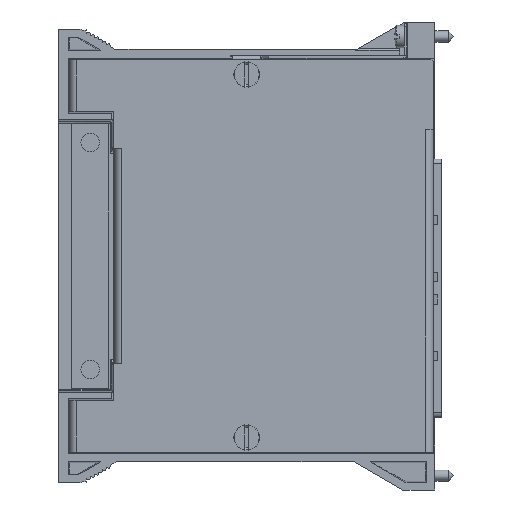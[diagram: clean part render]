
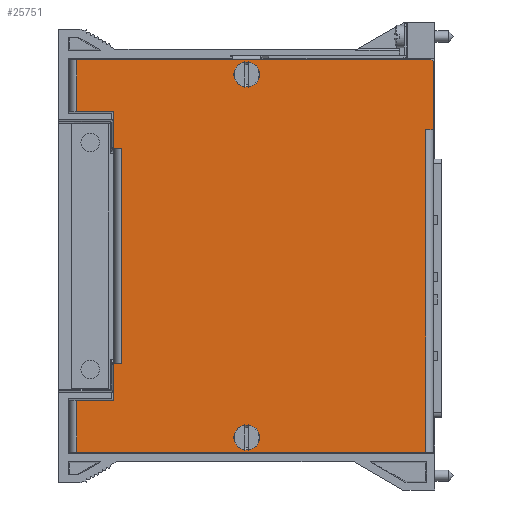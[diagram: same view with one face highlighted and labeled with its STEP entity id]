
A CAD part, top view. The second image highlights one B-rep face of the part: STEP entity #25751.
In plain terms, the highlighted planar face has unit normal (0, 0, 1).
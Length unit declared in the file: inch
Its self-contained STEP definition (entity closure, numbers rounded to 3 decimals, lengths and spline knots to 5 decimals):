
#3987=DIRECTION('',(0.,1.,0.));
#3988=VECTOR('',#3987,0.4575);
#3989=CARTESIAN_POINT('',(-3.15545,-1.73,0.382));
#3990=LINE('',#3989,#3988);
#4010=DIRECTION('',(0.,1.,0.));
#4011=VECTOR('',#4010,0.3225);
#4012=CARTESIAN_POINT('',(-2.82745,-1.2725,0.382));
#4013=LINE('',#4012,#4011);
#4014=DIRECTION('',(-1.,0.,0.));
#4015=VECTOR('',#4014,0.067);
#4016=CARTESIAN_POINT('',(-2.76045,-0.95,0.382));
#4017=LINE('',#4016,#4015);
#4018=DIRECTION('',(-1.,0.,0.));
#4019=VECTOR('',#4018,0.067);
#4020=CARTESIAN_POINT('',(-2.76045,0.95,0.382));
#4021=LINE('',#4020,#4019);
#4022=DIRECTION('',(0.,1.,0.));
#4023=VECTOR('',#4022,0.3225);
#4024=CARTESIAN_POINT('',(-2.82745,0.95,0.382));
#4025=LINE('',#4024,#4023);
#4026=DIRECTION('',(1.,0.,0.));
#4027=VECTOR('',#4026,0.328);
#4028=CARTESIAN_POINT('',(-3.15545,1.2725,0.382));
#4029=LINE('',#4028,#4027);
#4030=DIRECTION('',(-1.,0.,0.));
#4031=VECTOR('',#4030,3.123);
#4032=CARTESIAN_POINT('',(-0.03245,1.73,0.382));
#4033=LINE('',#4032,#4031);
#4034=DIRECTION('',(0.,1.,0.));
#4035=VECTOR('',#4034,0.595);
#4036=CARTESIAN_POINT('',(-0.01245,1.115,0.382));
#4037=LINE('',#4036,#4035);
#4038=DIRECTION('',(1.,0.,0.));
#4039=VECTOR('',#4038,0.067);
#4040=CARTESIAN_POINT('',(-0.07945,1.115,0.382));
#4041=LINE('',#4040,#4039);
#4042=DIRECTION('',(1.,0.,0.));
#4043=VECTOR('',#4042,3.076);
#4044=CARTESIAN_POINT('',(-3.15545,-1.73,0.382));
#4045=LINE('',#4044,#4043);
#4046=DIRECTION('',(1.,0.,0.));
#4047=VECTOR('',#4046,0.328);
#4048=CARTESIAN_POINT('',(-3.15545,-1.2725,0.382));
#4049=LINE('',#4048,#4047);
#4050=CARTESIAN_POINT('',(-1.65625,-1.6,0.382));
#4051=DIRECTION('',(0.,0.,-1.));
#4052=DIRECTION('',(-0.159,0.987,0.));
#4053=AXIS2_PLACEMENT_3D('',#4050,#4051,#4052);
#4055=CARTESIAN_POINT('',(-1.65625,-1.6,0.382));
#4056=DIRECTION('',(0.,0.,-1.));
#4057=DIRECTION('',(0.159,-0.987,0.));
#4058=AXIS2_PLACEMENT_3D('',#4055,#4056,#4057);
#4060=CARTESIAN_POINT('',(-1.65625,1.6,0.382));
#4061=DIRECTION('',(0.,0.,1.));
#4062=DIRECTION('',(0.159,0.987,0.));
#4063=AXIS2_PLACEMENT_3D('',#4060,#4061,#4062);
#4065=CARTESIAN_POINT('',(-1.65625,1.6,0.382));
#4066=DIRECTION('',(0.,0.,1.));
#4067=DIRECTION('',(-0.159,-0.987,0.));
#4068=AXIS2_PLACEMENT_3D('',#4065,#4066,#4067);
#4786=DIRECTION('',(0.,1.,0.));
#4787=VECTOR('',#4786,0.4575);
#4788=CARTESIAN_POINT('',(-3.15545,1.2725,0.382));
#4789=LINE('',#4788,#4787);
#4891=DIRECTION('',(0.,-1.,0.));
#4892=VECTOR('',#4891,1.9);
#4893=CARTESIAN_POINT('',(-2.76045,0.95,0.382));
#4894=LINE('',#4893,#4892);
#5678=DIRECTION('',(-0.707,0.707,0.));
#5679=VECTOR('',#5678,0.02828);
#5680=CARTESIAN_POINT('',(-0.01245,1.71,0.382));
#5681=LINE('',#5680,#5679);
#5751=DIRECTION('',(0.,-1.,0.));
#5752=VECTOR('',#5751,2.845);
#5753=CARTESIAN_POINT('',(-0.07945,1.115,0.382));
#5754=LINE('',#5753,#5752);
#5852=CARTESIAN_POINT('',(-1.67375,-1.4914,0.382));
#5854=CARTESIAN_POINT('',(-1.63875,-1.4914,0.382));
#5879=CARTESIAN_POINT('',(-1.63875,-1.7086,0.382));
#5881=CARTESIAN_POINT('',(-1.67375,-1.7086,0.382));
#5905=CARTESIAN_POINT('',(-1.65625,-1.6,0.382));
#5906=DIRECTION('',(0.,0.,-1.));
#5907=DIRECTION('',(0.159,0.987,0.));
#5908=AXIS2_PLACEMENT_3D('',#5905,#5906,#5907);
#5926=CARTESIAN_POINT('',(-1.65625,-1.6,0.382));
#5927=DIRECTION('',(0.,0.,-1.));
#5928=DIRECTION('',(-0.159,-0.987,0.));
#5929=AXIS2_PLACEMENT_3D('',#5926,#5927,#5928);
#5945=CARTESIAN_POINT('',(-1.67375,1.7086,0.382));
#5957=CARTESIAN_POINT('',(-1.63875,1.7086,0.382));
#5984=CARTESIAN_POINT('',(-1.65625,1.6,0.382));
#5985=DIRECTION('',(0.,0.,-1.));
#5986=DIRECTION('',(0.159,0.987,0.));
#5987=AXIS2_PLACEMENT_3D('',#5984,#5985,#5986);
#5998=CARTESIAN_POINT('',(-1.63875,1.4914,0.382));
#6010=CARTESIAN_POINT('',(-1.67375,1.4914,0.382));
#6024=CARTESIAN_POINT('',(-1.65625,1.6,0.382));
#6025=DIRECTION('',(0.,0.,-1.));
#6026=DIRECTION('',(-0.159,-0.987,0.));
#6027=AXIS2_PLACEMENT_3D('',#6024,#6025,#6026);
#17801=CARTESIAN_POINT('',(-3.15545,1.73,0.382));
#17803=VERTEX_POINT('',#17801);
#17805=CARTESIAN_POINT('',(-3.15545,-1.73,0.382));
#17807=VERTEX_POINT('',#17805);
#17816=CARTESIAN_POINT('',(-3.15545,-1.2725,0.382));
#17817=CARTESIAN_POINT('',(-2.82745,-1.2725,0.382));
#17818=VERTEX_POINT('',#17816);
#17819=VERTEX_POINT('',#17817);
#17820=CARTESIAN_POINT('',(-3.15545,1.2725,0.382));
#17821=CARTESIAN_POINT('',(-2.82745,1.2725,0.382));
#17822=VERTEX_POINT('',#17820);
#17823=VERTEX_POINT('',#17821);
#17860=CARTESIAN_POINT('',(-0.07945,1.115,0.382));
#17861=CARTESIAN_POINT('',(-0.01245,1.115,0.382));
#17862=VERTEX_POINT('',#17860);
#17863=VERTEX_POINT('',#17861);
#17872=CARTESIAN_POINT('',(-0.07945,-1.73,0.382));
#17873=VERTEX_POINT('',#17872);
#17884=CARTESIAN_POINT('',(-2.76045,0.95,0.382));
#17885=CARTESIAN_POINT('',(-2.82745,0.95,0.382));
#17886=VERTEX_POINT('',#17884);
#17887=VERTEX_POINT('',#17885);
#17892=CARTESIAN_POINT('',(-2.76045,-0.95,0.382));
#17893=CARTESIAN_POINT('',(-2.82745,-0.95,0.382));
#17894=VERTEX_POINT('',#17892);
#17895=VERTEX_POINT('',#17893);
#17972=CARTESIAN_POINT('',(-0.01245,1.71,0.382));
#17973=CARTESIAN_POINT('',(-0.03245,1.73,0.382));
#17974=VERTEX_POINT('',#17972);
#17975=VERTEX_POINT('',#17973);
#18086=VERTEX_POINT('',#5879);
#18087=VERTEX_POINT('',#5881);
#18092=VERTEX_POINT('',#5854);
#18093=VERTEX_POINT('',#5852);
#18130=VERTEX_POINT('',#5957);
#18131=VERTEX_POINT('',#5945);
#18136=VERTEX_POINT('',#5998);
#18137=VERTEX_POINT('',#6010);
#25698=CARTESIAN_POINT('',(-3.22245,0.,0.382));
#25699=DIRECTION('',(0.,0.,1.));
#25700=DIRECTION('',(1.,0.,0.));
#25701=AXIS2_PLACEMENT_3D('',#25698,#25699,#25700);
#25702=PLANE('',#25701);
#25704=ORIENTED_EDGE('',*,*,#25703,.T.);
#25706=ORIENTED_EDGE('',*,*,#25705,.F.);
#25708=ORIENTED_EDGE('',*,*,#25707,.F.);
#25710=ORIENTED_EDGE('',*,*,#25709,.T.);
#25712=ORIENTED_EDGE('',*,*,#25711,.T.);
#25714=ORIENTED_EDGE('',*,*,#25713,.F.);
#25716=ORIENTED_EDGE('',*,*,#25715,.T.);
#25717=ORIENTED_EDGE('',*,*,#24538,.F.);
#25719=ORIENTED_EDGE('',*,*,#25718,.F.);
#25721=ORIENTED_EDGE('',*,*,#25720,.F.);
#25723=ORIENTED_EDGE('',*,*,#25722,.F.);
#25725=ORIENTED_EDGE('',*,*,#25724,.T.);
#25726=ORIENTED_EDGE('',*,*,#25498,.F.);
#25727=ORIENTED_EDGE('',*,*,#25668,.T.);
#25728=ORIENTED_EDGE('',*,*,#25681,.T.);
#25729=EDGE_LOOP('',(#25704,#25706,#25708,#25710,#25712,#25714,#25716,#25717,
#25719,#25721,#25723,#25725,#25726,#25727,#25728));
#25730=FACE_OUTER_BOUND('',#25729,.F.);
#25732=ORIENTED_EDGE('',*,*,#25731,.F.);
#25734=ORIENTED_EDGE('',*,*,#25733,.F.);
#25736=ORIENTED_EDGE('',*,*,#25735,.F.);
#25738=ORIENTED_EDGE('',*,*,#25737,.F.);
#25739=EDGE_LOOP('',(#25732,#25734,#25736,#25738));
#25740=FACE_BOUND('',#25739,.F.);
#25742=ORIENTED_EDGE('',*,*,#25741,.T.);
#25744=ORIENTED_EDGE('',*,*,#25743,.F.);
#25746=ORIENTED_EDGE('',*,*,#25745,.T.);
#25748=ORIENTED_EDGE('',*,*,#25747,.F.);
#25749=EDGE_LOOP('',(#25742,#25744,#25746,#25748));
#25750=FACE_BOUND('',#25749,.F.);
#25751=ADVANCED_FACE('',(#25730,#25740,#25750),#25702,.T.);
#4054=CIRCLE('',#4053,0.11);
#4059=CIRCLE('',#4058,0.11);
#4064=CIRCLE('',#4063,0.11);
#4069=CIRCLE('',#4068,0.11);
#5909=CIRCLE('',#5908,0.11);
#5930=CIRCLE('',#5929,0.11);
#5988=CIRCLE('',#5987,0.11);
#6028=CIRCLE('',#6027,0.11);
#24538=EDGE_CURVE('',#17975,#17803,#4033,.T.);
#25498=EDGE_CURVE('',#17807,#17873,#4045,.T.);
#25668=EDGE_CURVE('',#17807,#17818,#3990,.T.);
#25681=EDGE_CURVE('',#17818,#17819,#4049,.T.);
#25703=EDGE_CURVE('',#17819,#17895,#4013,.T.);
#25705=EDGE_CURVE('',#17894,#17895,#4017,.T.);
#25707=EDGE_CURVE('',#17886,#17894,#4894,.T.);
#25709=EDGE_CURVE('',#17886,#17887,#4021,.T.);
#25711=EDGE_CURVE('',#17887,#17823,#4025,.T.);
#25713=EDGE_CURVE('',#17822,#17823,#4029,.T.);
#25715=EDGE_CURVE('',#17822,#17803,#4789,.T.);
#25718=EDGE_CURVE('',#17974,#17975,#5681,.T.);
#25720=EDGE_CURVE('',#17863,#17974,#4037,.T.);
#25722=EDGE_CURVE('',#17862,#17863,#4041,.T.);
#25724=EDGE_CURVE('',#17862,#17873,#5754,.T.);
#25731=EDGE_CURVE('',#18093,#18092,#4054,.T.);
#25733=EDGE_CURVE('',#18087,#18093,#5930,.T.);
#25735=EDGE_CURVE('',#18086,#18087,#4059,.T.);
#25737=EDGE_CURVE('',#18092,#18086,#5909,.T.);
#25741=EDGE_CURVE('',#18130,#18131,#4064,.T.);
#25743=EDGE_CURVE('',#18137,#18131,#6028,.T.);
#25745=EDGE_CURVE('',#18137,#18136,#4069,.T.);
#25747=EDGE_CURVE('',#18130,#18136,#5988,.T.);
